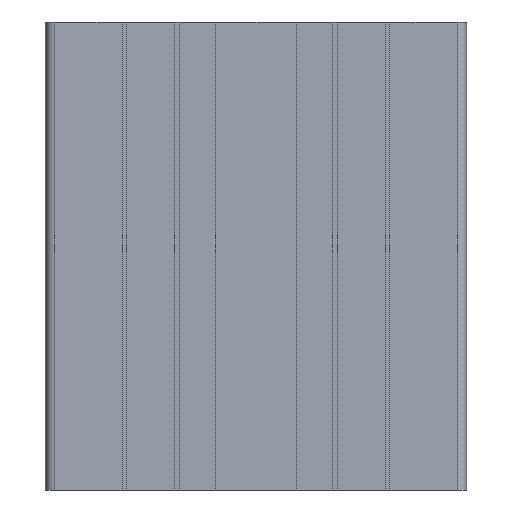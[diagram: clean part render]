
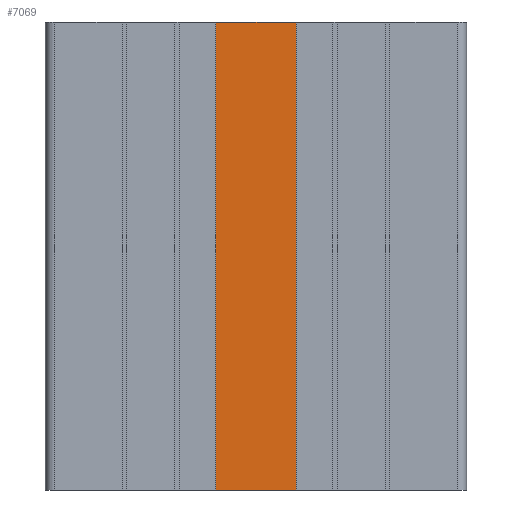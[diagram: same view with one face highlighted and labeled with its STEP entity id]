
A CAD part, front view. The second image highlights one B-rep face of the part: STEP entity #7069.
In plain terms, the highlighted planar face has unit normal (0, -1, 0).
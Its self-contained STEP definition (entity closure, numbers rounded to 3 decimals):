
#348 = CARTESIAN_POINT ( 'NONE',  ( 13.9, -21.5, -100. ) ) ;
#404 = VECTOR ( 'NONE', #10383, 1000. ) ;
#681 = LINE ( 'NONE', #6945, #404 ) ;
#805 = CARTESIAN_POINT ( 'NONE',  ( 13.9, -21.5, -100. ) ) ;
#1018 = LINE ( 'NONE', #805, #7173 ) ;
#1046 = PLANE ( 'NONE',  #9343 ) ;
#1188 = FACE_OUTER_BOUND ( 'NONE', #2103, .T. ) ;
#1844 = EDGE_CURVE ( 'NONE', #1896, #3739, #1018, .T. ) ;
#1896 = VERTEX_POINT ( 'NONE', #7798 ) ;
#2103 = EDGE_LOOP ( 'NONE', ( #8199, #11246, #10590, #9183 ) ) ;
#2216 = EDGE_CURVE ( 'NONE', #3739, #6143, #10257, .T. ) ;
#2692 = CARTESIAN_POINT ( 'NONE',  ( 13.9, -21.5, 0. ) ) ;
#2836 = DIRECTION ( 'NONE',  ( 0., 0., 1. ) ) ;
#2877 = VERTEX_POINT ( 'NONE', #4924 ) ;
#3540 = DIRECTION ( 'NONE',  ( 0., 0., 1. ) ) ;
#3739 = VERTEX_POINT ( 'NONE', #348 ) ;
#4247 = DIRECTION ( 'NONE',  ( 0., 0., 1. ) ) ;
#4263 = VECTOR ( 'NONE', #3540, 1000. ) ;
#4528 = LINE ( 'NONE', #8691, #4263 ) ;
#4924 = CARTESIAN_POINT ( 'NONE',  ( 31.1, -21.5, 0. ) ) ;
#6143 = VERTEX_POINT ( 'NONE', #2692 ) ;
#6945 = CARTESIAN_POINT ( 'NONE',  ( 13.9, -21.5, 0. ) ) ;
#7069 = ADVANCED_FACE ( 'NONE', ( #1188 ), #1046, .F. ) ;
#7154 = CARTESIAN_POINT ( 'NONE',  ( 13.9, -21.5, -100. ) ) ;
#7173 = VECTOR ( 'NONE', #9505, 1000. ) ;
#7181 = EDGE_CURVE ( 'NONE', #1896, #2877, #4528, .T. ) ;
#7798 = CARTESIAN_POINT ( 'NONE',  ( 31.1, -21.5, -100. ) ) ;
#7992 = DIRECTION ( 'NONE',  ( 0., 1., 0. ) ) ;
#8199 = ORIENTED_EDGE ( 'NONE', *, *, #10234, .T. ) ;
#8691 = CARTESIAN_POINT ( 'NONE',  ( 31.1, -21.5, -100. ) ) ;
#9183 = ORIENTED_EDGE ( 'NONE', *, *, #7181, .T. ) ;
#9343 = AXIS2_PLACEMENT_3D ( 'NONE', #7154, #7992, #2836 ) ;
#9505 = DIRECTION ( 'NONE',  ( -1., 0., 0. ) ) ;
#9981 = VECTOR ( 'NONE', #4247, 1000. ) ;
#10234 = EDGE_CURVE ( 'NONE', #2877, #6143, #681, .T. ) ;
#10241 = CARTESIAN_POINT ( 'NONE',  ( 13.9, -21.5, -100. ) ) ;
#10257 = LINE ( 'NONE', #10241, #9981 ) ;
#10383 = DIRECTION ( 'NONE',  ( -1., 0., 0. ) ) ;
#10590 = ORIENTED_EDGE ( 'NONE', *, *, #1844, .F. ) ;
#11246 = ORIENTED_EDGE ( 'NONE', *, *, #2216, .F. ) ;
